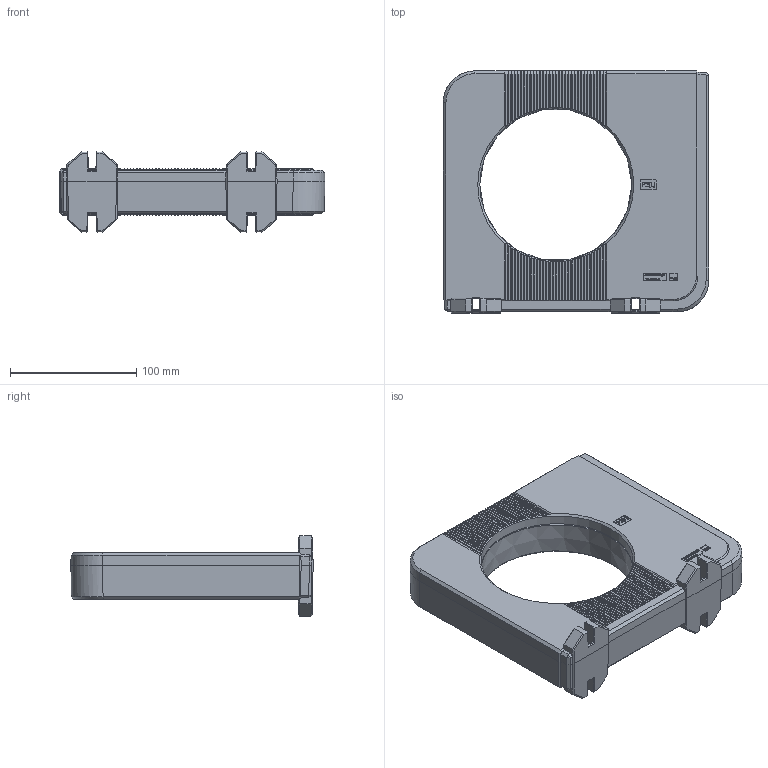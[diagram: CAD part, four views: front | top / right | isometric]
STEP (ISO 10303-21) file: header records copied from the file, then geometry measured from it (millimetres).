
FILE_DESCRIPTION (( 'STEP AP214' ), '1' );
FILE_NAME ('DACT120-Wandler_kpl.STEP', '2018-07-18T08:15:11', ( '' ), ( '' ), 'SwSTEP 2.0', 'SolidWorks 2016', '' );
FILE_SCHEMA (( 'AUTOMOTIVE_DESIGN' ));
Length unit declared in the file: millimetre
Products named in the file (3): DACT120_Gehäuseoberteil_4polig_2.8432_01_4polige Variante; DACT120_Gehäuseunterteil_4polig_2.8430_01_4polige Variante; DACT120-Wandler_kpl
Assembly tree (2 placements, depth 2):
  DACT120-Wandler_kpl
    DACT120_Gehäuseunterteil_4polig_2.8430_01_4polige Variante
    DACT120_Gehäuseoberteil_4polig_2.8432_01_4polige Variante
Bounding box: 210 x 191.5 x 63.4 mm (x, y, z)
Volume: 1022502.7 mm3; surface area: 208796 mm2
Topology: 2 solids, 36 shells, 2218 faces, 5591 edges, 3501 vertices
Faces by surface type: plane 1626, cylinder 321, bspline 176, cone 68, torus 27
Full cylindrical faces by diameter (mm): 125.4 x1
Entity records: 75004 total; most frequent: CARTESIAN_POINT 24715, ORIENTED_EDGE 11152, DIRECTION 9025, EDGE_CURVE 5576, LINE 4125, VECTOR 4125, VERTEX_POINT 3495, AXIS2_PLACEMENT_3D 2450
